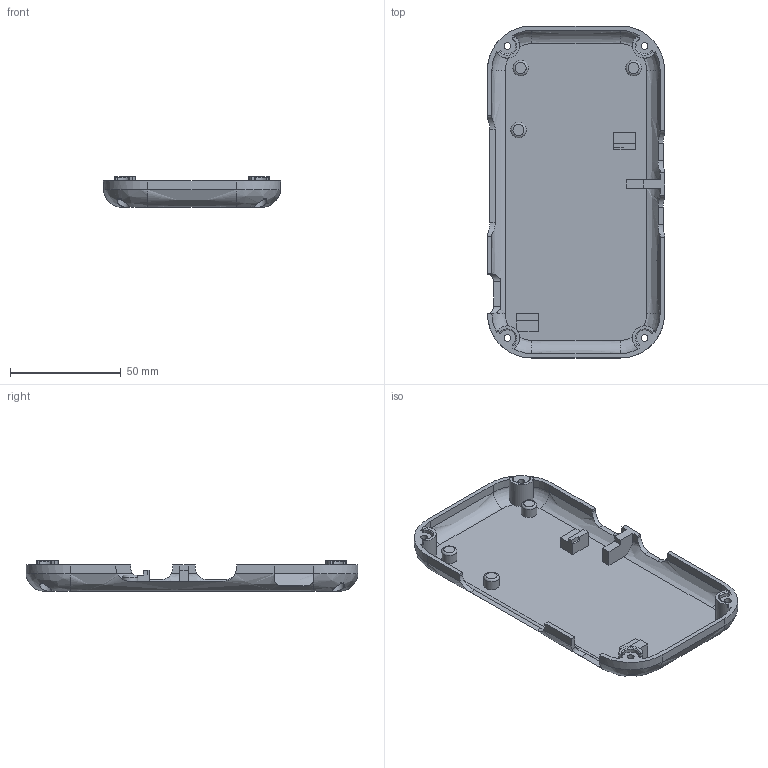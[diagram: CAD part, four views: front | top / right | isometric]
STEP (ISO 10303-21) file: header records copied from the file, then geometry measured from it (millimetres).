
FILE_DESCRIPTION(/* description */ (''),/* implementation_level */ '2;1');
FILE_NAME(/* name */ '07_Rear_Shell.step',/* time_stamp */ '2026-09-20T10:25:48-07:00',/* author */ (''),/* organization */ (''),/* preprocessor_version */ 'ST-DEVELOPER v20.2',/* originating_system */ 'Autodesk Translation Framework v15.15.0.0',/* authorisation */ '');
FILE_SCHEMA (('AUTOMOTIVE_DESIGN { 1 0 10303 214 3 1 1 }'));
Length unit declared in the file: millimetre
Products named in the file (1): 2026-09-20-10-25-48-652
Bounding box: 80 x 150 x 14 mm (x, y, z)
Volume: 31664.5 mm3; surface area: 30439.8 mm2
Topology: 1 solids, 1 shells, 152 faces, 415 edges, 273 vertices
Faces by surface type: plane 75, cylinder 49, bspline 21, torus 7
Full cylindrical faces by diameter (mm): 3 x4, 5.5 x4, 7 x3
Entity records: 6781 total; most frequent: CARTESIAN_POINT 3100, ORIENTED_EDGE 830, DIRECTION 653, EDGE_CURVE 415, VERTEX_POINT 273, AXIS2_PLACEMENT_3D 231, LINE 191, VECTOR 191
